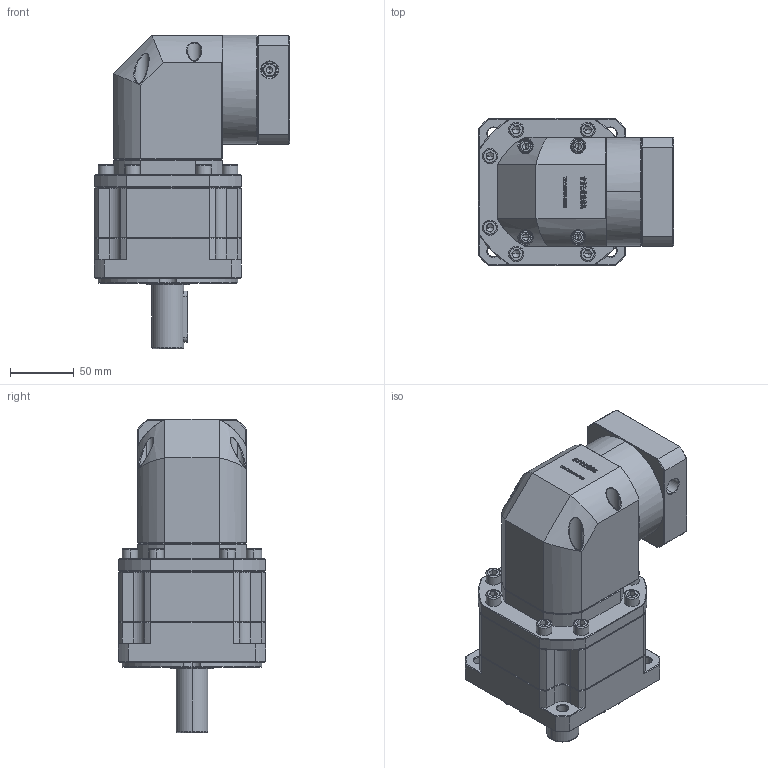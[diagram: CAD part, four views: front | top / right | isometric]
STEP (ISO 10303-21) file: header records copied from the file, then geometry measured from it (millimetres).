
FILE_DESCRIPTION (( 'STEP AP214' ), '1' );
FILE_NAME ('ZBR115A-D25-L2-12.7-73-69.5X69.5-M6.step', '2023-03-02T14:33:29', ( '' ), ( 'Microsoft' ), 'SwSTEP 2.0', 'SolidWorks 2016', '' );
FILE_SCHEMA (( 'AUTOMOTIVE_DESIGN' ));
Length unit declared in the file: millimetre
Products named in the file (1): ZBR115A-D25-L2-12.7-73-69.5X69.5-M6
Bounding box: 152.6 x 115 x 245 mm (x, y, z)
Volume: 1936932.1 mm3; surface area: 176477.1 mm2
Topology: 6 solids, 6 shells, 3195 faces, 8386 edges, 5342 vertices
Faces by surface type: plane 1701, bspline 633, cylinder 476, cone 371, torus 14
Entity records: 170753 total; most frequent: CARTESIAN_POINT 62024, ORIENTED_EDGE 16664, DIRECTION 12827, EDGE_CURVE 8332, LINE 5595, VECTOR 5595, VERTEX_POINT 5342, AXIS2_PLACEMENT_3D 3616
